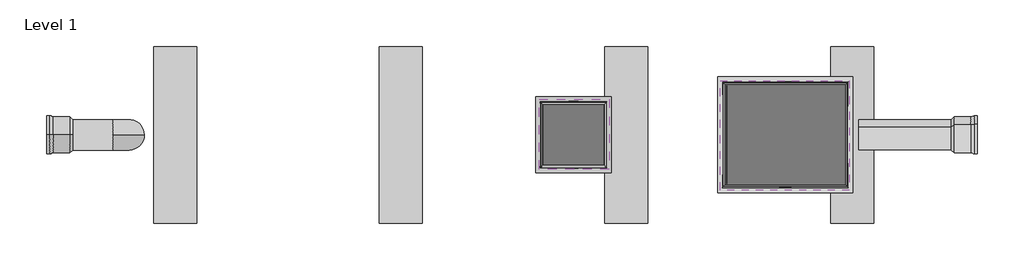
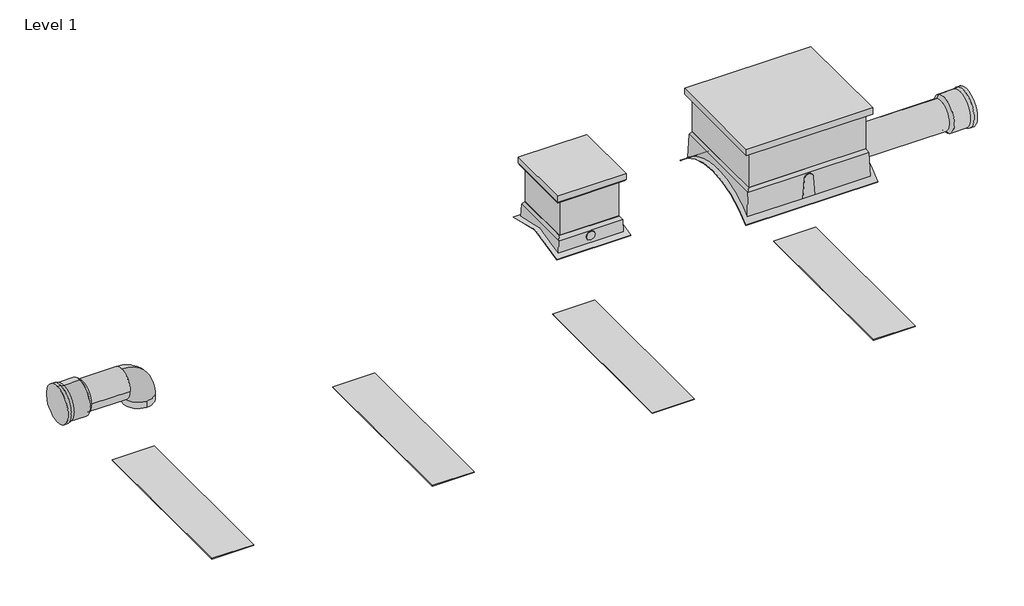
# One storey, incomplete: 12 proxies.
"""IFC4 building model written with IfcOpenShell, lengths in millimetres."""

from ifc_helpers import new_model, si_unit, origin, place, context, project, spatial, transform, mapped, element, save
from components import generic_models_cfe88e4f, generic_models_790451eb, generic_models_1ade828a, generic_models_2cc97f2b, generic_models_ba4cfca8, generic_models_47c2befc, generic_models_27197e94, proxy_450_stormpro_inlet_elbow_3b9101ad, proxy_450_stormpro_pipe_and_socket_e8ca657c

model = new_model("IFC4")

# Units and contexts
model_context = context("Model", 3, world=origin())
ifc_project = project(units=[si_unit("LENGTHUNIT", "METRE", prefix="MILLI")], contexts=[model_context])

# Site, building, storey
site = spatial("IfcSite", under=ifc_project)
building = spatial("IfcBuilding", under=site)
storey = spatial("IfcBuildingStorey", under=building, Name="Level 1", Elevation=0.0)

# Proxies
placement = place(None, origin())
generic_models_shape = generic_models_cfe88e4f(model_context)
element("IfcBuildingElementProxy", 1, Name="SU.HS.FOOT.2500", ObjectType="SU.HS.FOOT.2500", at=placement, inside=storey, context=model_context, shape_type="MappedRepresentation", body=[
    mapped(generic_models_shape, transform((-4255.7855182, -13.0189138, -1631.7858921), x_axis=(0.0, 1.0, 0.0), y_axis=(0.0, 0.0, 1.0), z_axis=(1.0, 0.0, 0.0))),
])
element("IfcBuildingElementProxy", 2, Name="SU.HS.FOOT.2500", ObjectType="SU.HS.FOOT.2500", at=placement, inside=storey, context=model_context, shape_type="MappedRepresentation", body=[
    mapped(generic_models_shape, transform((-835.7855182, -13.0189138, -1631.7858921), x_axis=(0.0, 1.0, 0.0), y_axis=(0.0, 0.0, 1.0), z_axis=(1.0, 0.0, 0.0))),
])
element("IfcBuildingElementProxy", 3, Name="SU.HS.FOOT.2500", ObjectType="SU.HS.FOOT.2500", at=placement, inside=storey, context=model_context, shape_type="MappedRepresentation", body=[
    mapped(generic_models_shape, transform((6004.2144818, -13.0189138, -1631.7858921), x_axis=(0.0, 1.0, 0.0), y_axis=(0.0, 0.0, 1.0), z_axis=(1.0, 0.0, 0.0))),
])
element("IfcBuildingElementProxy", 4, Name="SU.HS.FOOT.2500", ObjectType="SU.HS.FOOT.2500", at=placement, inside=storey, context=model_context, shape_type="MappedRepresentation", body=[
    mapped(generic_models_shape, transform((2575.7856266, -13.0189138, -1631.7858921), x_axis=(0.0, 1.0, 0.0), y_axis=(0.0, 0.0, 1.0), z_axis=(1.0, 0.0, 0.0))),
])
generic_models_2_shape = generic_models_790451eb(model_context)
element("IfcBuildingElementProxy", 5, Name="SU.1500x1800ManwayRiserAdaptor.2500", ObjectType="SU.1500x1800ManwayRiserAdaptor.2500", at=placement, inside=storey, context=model_context, shape_type="MappedRepresentation", body=[
    mapped(generic_models_2_shape, transform((5213.603567, -13.0189138, 1117.8724857), x_axis=(0.0, 1.0, 0.0), y_axis=(0.0, 0.0, 1.0), z_axis=(1.0, 0.0, 0.0))),
])
generic_models_3_shape = generic_models_1ade828a(model_context)
element("IfcBuildingElementProxy", 6, Name="1500x1800 Manway Cover Class D ST-02", ObjectType="1500x1800 Manway Cover Class D ST-02", at=placement, inside=storey, context=model_context, shape_type="MappedRepresentation", body=[
    mapped(generic_models_3_shape, transform((5203.603567, -23.0189138, 1673.8765111), x_axis=(0.0, 1.0, 0.0), y_axis=(0.0, 0.0, 1.0), z_axis=(1.0, 0.0, 0.0))),
])
generic_models_4_shape = generic_models_2cc97f2b(model_context)
element("IfcBuildingElementProxy", 7, Name="SU.900x900ManwayRiserAdapter.2500", ObjectType="SU.900x900ManwayRiserAdapter.2500", at=placement, inside=storey, context=model_context, shape_type="MappedRepresentation", body=[
    mapped(generic_models_4_shape, transform((2003.5961384, -13.0189138, 1117.8765111), x_axis=(0.0, -1.0, 0.0), y_axis=(0.0, 0.0, 1.0), z_axis=(-1.0, 0.0, 0.0))),
])
generic_models_5_shape = generic_models_ba4cfca8(model_context)
element("IfcBuildingElementProxy", 8, Name="1500x1800x600 Manway Riser", ObjectType="1500x1800x600 Manway Riser", at=placement, inside=storey, context=model_context, shape_type="MappedRepresentation", body=[
    mapped(generic_models_5_shape, transform((5213.603567, -13.0189138, 1673.8765111), x_axis=(0.0, 1.0, 0.0), y_axis=(0.0, 0.0, 1.0), z_axis=(1.0, 0.0, 0.0))),
])
generic_models_6_shape = generic_models_47c2befc(model_context)
element("IfcBuildingElementProxy", 9, Name="900x900x600 Manway Riser", ObjectType="900x900x600 Manway Riser", at=placement, inside=storey, context=model_context, shape_type="MappedRepresentation", body=[
    mapped(generic_models_6_shape, transform((2003.5997957, -13.0152565, 1673.8765111), x_axis=(0.0, 1.0, 0.0), y_axis=(0.0, 0.0, 1.0), z_axis=(1.0, 0.0, 0.0))),
])
generic_models_7_shape = generic_models_27197e94(model_context)
element("IfcBuildingElementProxy", 10, Name="900x900 Manway Cover Class D ST-02", ObjectType="900x900 Manway Cover Class D ST-02", at=placement, inside=storey, context=model_context, shape_type="MappedRepresentation", body=[
    mapped(generic_models_7_shape, transform((2013.5997957, -3.0152565, 1673.8765111), x_axis=(0.0, 1.0, 0.0), y_axis=(0.0, 0.0, 1.0), z_axis=(1.0, 0.0, 0.0))),
])
proxy_450_stormpro_inlet_elbow_shape = proxy_450_stormpro_inlet_elbow_3b9101ad(model_context)
element("IfcBuildingElementProxy", 11, Name="450 StormPro Inlet Elbow", ObjectType="450 StormPro Inlet Elbow", at=placement, inside=storey, context=model_context, shape_type="MappedRepresentation", body=[
    mapped(proxy_450_stormpro_inlet_elbow_shape, transform((-5529.9999458, -13.0189138, 659.8743619), x_axis=(0.0, -1.0, 0.0), y_axis=(0.0, 0.0, 1.0), z_axis=(-1.0, 0.0, 0.0))),
])
proxy_450_stormpro_pipe_and_socket_shape = proxy_450_stormpro_pipe_and_socket_e8ca657c(model_context)
element("IfcBuildingElementProxy", 12, Name="450 StormPro Pipe and Socket", ObjectType="450 StormPro Pipe and Socket", at=placement, inside=storey, context=model_context, shape_type="MappedRepresentation", body=[
    mapped(proxy_450_stormpro_pipe_and_socket_shape, transform((5024.3178527, -13.0189138, 609.2141079), x_axis=(0.0, 0.8432797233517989, -0.5374749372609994), y_axis=(0.0, 0.5374749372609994, 0.8432797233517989), z_axis=(0.9999999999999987, 0.0, 0.0))),
])

save(model, "model.ifc")
